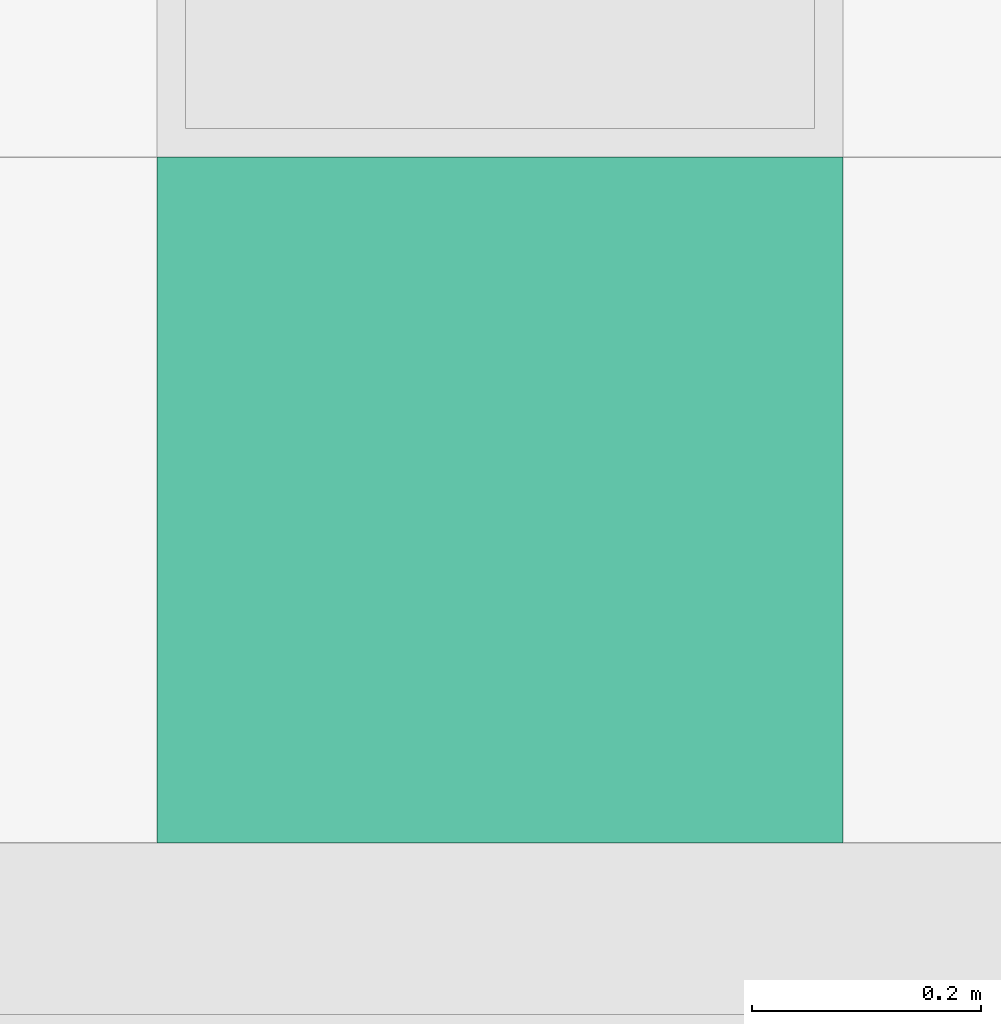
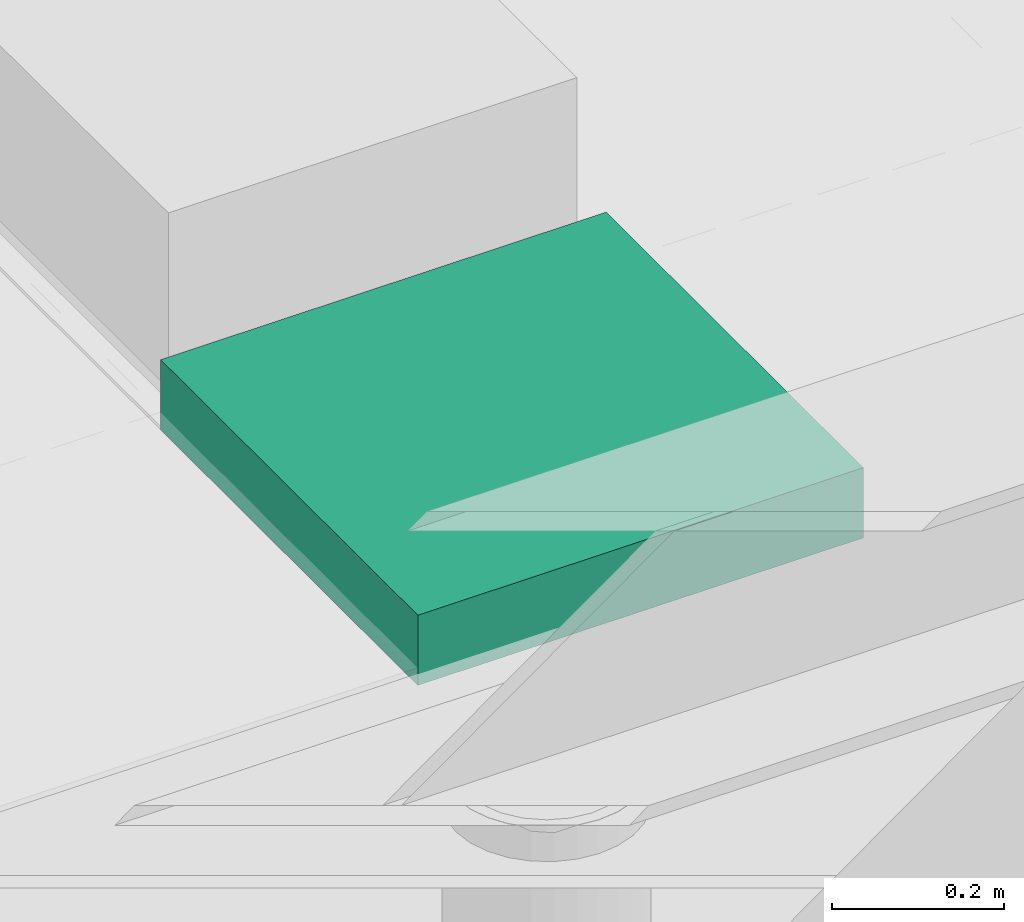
# One storey, part 188 of 347: 1 flow terminal.
"""IFC2X3 building model written with IfcOpenShell, lengths in millimetres."""

from ifc_helpers import new_model, entity, si_unit, converted_unit, derived_unit, money_unit, direction, frame, origin_with_axes, place, context, subcontext, project, spatial, open_shell, faceted_brep, surface_model, source, transform, mapped, type_object, type_shapes, element, save


model = new_model("IFC2X3")

# Units and contexts
model_context = context("Model", 3, precision=0.01, world=origin_with_axes(), true_north=direction((0.0, 1.0)))
plan_context = context("Plan", 3, precision=0.01, world=origin_with_axes(), true_north=direction((0.0, 1.0)))
body_context = subcontext(model_context, "Body", "Model", "MODEL_VIEW")
ifc_project = project(units=[si_unit("LENGTHUNIT", "METRE", prefix="MILLI"), si_unit("AREAUNIT", "SQUARE_METRE"), si_unit("VOLUMEUNIT", "CUBIC_METRE"), converted_unit("PLANEANGLEUNIT", "DEGREE", entity("IfcPlaneAngleMeasure", 0.0174532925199), si_unit("PLANEANGLEUNIT", "RADIAN"), dimensions=[0, 0, 0, 0, 0, 0, 0]), money_unit("EUR"), converted_unit("TIMEUNIT", "Year", entity("IfcTimeMeasure", 31556926.0), si_unit("TIMEUNIT", "SECOND"), dimensions=[0, 0, 1, 0, 0, 0, 0]), si_unit("MASSUNIT", "GRAM", prefix="KILO"), si_unit("THERMODYNAMICTEMPERATUREUNIT", "DEGREE_CELSIUS"), si_unit("LUMINOUSINTENSITYUNIT", "LUMEN"), si_unit("ENERGYUNIT", "JOULE", prefix="MEGA"), derived_unit("THERMALCONDUCTANCEUNIT", [(si_unit("POWERUNIT", "WATT"), 1), (si_unit("LENGTHUNIT", "METRE"), -1), (si_unit("THERMODYNAMICTEMPERATUREUNIT", "KELVIN"), -1)]), derived_unit("SPECIFICHEATCAPACITYUNIT", [(si_unit("ENERGYUNIT", "JOULE"), 1), (si_unit("MASSUNIT", "GRAM", prefix="KILO"), -1), (si_unit("THERMODYNAMICTEMPERATUREUNIT", "KELVIN"), -1)]), derived_unit("MASSDENSITYUNIT", [(si_unit("MASSUNIT", "GRAM", prefix="KILO"), 1), (si_unit("VOLUMEUNIT", "CUBIC_METRE"), -1)])], contexts=[model_context, plan_context])

# Site, building, storey
site_placement = place(None, origin_with_axes())
site = spatial("IfcSite", under=ifc_project, at=site_placement, Name="Site", CompositionType="ELEMENT")
building_placement = place(site_placement, origin_with_axes())
building = spatial("IfcBuilding", under=site, at=building_placement, Name="Naam gebouw", CompositionType="ELEMENT")
storey_placement = place(building_placement, origin_with_axes())
storey = spatial("IfcBuildingStorey", under=building, at=storey_placement, Name="begane grond", CompositionType="ELEMENT", Elevation=0.0)

# Flow terminal
lamp_type = type_object("IfcLampType", Name="TL plafond 25", PredefinedType="NOTDEFINED")
shared_shape = source(origin_with_axes(), body_context, "Body", "SurfaceModel", [
    faceted_brep([(0.0, 0.0, -100.0), (600.0, 0.0, -100.0), (600.0, 0.0, 0.0), (0.0, 0.0, 0.0), (0.0, 600.0, -100.0), (600.0, 600.0, -100.0), (40.0, 40.0, -100.0), (560.0, 40.0, -100.0), (560.0, 560.0, -100.0), (40.0, 560.0, -100.0), (600.0, 600.0, 0.0), (0.0, 600.0, 0.0), (40.0, 40.0, 0.0), (40.0, 560.0, 0.0), (560.0, 560.0, 0.0), (560.0, 40.0, 0.0)], [[[0, 1, 2, 3]], [[0, 4, 5, 1], [6, 7, 8, 9]], [[1, 5, 10, 2]], [[3, 2, 10, 11], [12, 13, 14, 15]], [[4, 0, 3, 11]], [[5, 4, 11, 10]], [[7, 6, 12, 15]], [[8, 7, 15, 14]], [[9, 8, 14, 13]], [[6, 9, 13, 12]]]),
    faceted_brep([(40.0, 40.0, -16.3333333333), (560.0, 40.0, -16.3333333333), (560.0, 40.0, 0.0), (40.0, 40.0, 0.0), (40.0, 560.0, -16.3333333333), (560.0, 560.0, -16.3333333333), (560.0, 560.0, 0.0), (40.0, 560.0, 0.0)], [[[0, 1, 2, 3]], [[0, 4, 5, 1]], [[1, 5, 6, 2]], [[3, 2, 6, 7]], [[4, 0, 3, 7]], [[5, 4, 7, 6]]]),
    surface_model("IfcShellBasedSurfaceModel", [(559.0, 41.0, -100.0), (40.0, 41.0, -100.0), (40.0, 559.0, -100.0), (559.0, 559.0, -100.0)], [open_shell([[[0, 1, 2, 3]]])]),
    faceted_brep([(40.0, 40.0, -100.0), (560.0, 40.0, -100.0), (560.0, 40.0, -60.0), (40.0, 40.0, -60.0), (40.0, 560.0, -100.0), (560.0, 560.0, -100.0), (41.0, 41.0, -100.0), (559.0, 41.0, -100.0), (559.0, 559.0, -100.0), (41.0, 559.0, -100.0), (560.0, 560.0, -60.0), (40.0, 560.0, -60.0), (41.0, 41.0, -60.0), (41.0, 559.0, -60.0), (559.0, 559.0, -60.0), (559.0, 41.0, -60.0)], [[[0, 1, 2, 3]], [[0, 4, 5, 1], [6, 7, 8, 9]], [[1, 5, 10, 2]], [[3, 2, 10, 11], [12, 13, 14, 15]], [[4, 0, 3, 11]], [[5, 4, 11, 10]], [[7, 6, 12, 15]], [[8, 7, 15, 14]], [[9, 8, 14, 13]], [[6, 9, 13, 12]]]),
    faceted_brep([(40.0, 144.0, -48.3333333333), (40.0, 149.740251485, -47.191526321), (560.0, 149.740251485, -47.191526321), (560.0, 144.0, -48.3333333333), (40.0, 138.259748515, -47.191526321), (40.0, 133.393398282, -43.9399350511), (40.0, 130.141807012, -39.0735848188), (40.0, 129.0, -33.3333333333), (40.0, 130.141807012, -27.5930818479), (40.0, 133.393398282, -22.7267316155), (40.0, 138.259748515, -19.4751403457), (40.0, 144.0, -18.3333333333), (40.0, 149.740251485, -19.4751403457), (40.0, 154.606601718, -22.7267316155), (40.0, 157.858192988, -27.5930818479), (40.0, 159.0, -33.3333333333), (40.0, 157.858192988, -39.0735848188), (40.0, 154.606601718, -43.9399350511), (40.0, 144.0, -46.3333333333), (40.0, 148.974884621, -45.343767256), (40.0, 153.192388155, -42.5257214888), (40.0, 156.010433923, -38.3082179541), (40.0, 157.0, -33.3333333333), (40.0, 156.010433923, -28.3584487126), (40.0, 153.192388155, -24.1409451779), (40.0, 148.974884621, -21.3228994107), (40.0, 144.0, -20.3333333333), (40.0, 139.025115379, -21.3228994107), (40.0, 134.807611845, -24.1409451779), (40.0, 131.989566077, -28.3584487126), (40.0, 131.0, -33.3333333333), (40.0, 131.989566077, -38.3082179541), (40.0, 134.807611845, -42.5257214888), (40.0, 139.025115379, -45.343767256), (560.0, 154.606601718, -43.9399350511), (560.0, 157.858192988, -39.0735848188), (560.0, 159.0, -33.3333333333), (560.0, 157.858192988, -27.5930818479), (560.0, 154.606601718, -22.7267316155), (560.0, 149.740251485, -19.4751403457), (560.0, 144.0, -18.3333333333), (560.0, 138.259748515, -19.4751403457), (560.0, 133.393398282, -22.7267316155), (560.0, 130.141807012, -27.5930818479), (560.0, 129.0, -33.3333333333), (560.0, 130.141807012, -39.0735848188), (560.0, 133.393398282, -43.9399350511), (560.0, 138.259748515, -47.191526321), (560.0, 144.0, -46.3333333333), (560.0, 139.025115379, -45.343767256), (560.0, 134.807611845, -42.5257214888), (560.0, 131.989566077, -38.3082179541), (560.0, 131.0, -33.3333333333), (560.0, 131.989566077, -28.3584487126), (560.0, 134.807611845, -24.1409451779), (560.0, 139.025115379, -21.3228994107), (560.0, 144.0, -20.3333333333), (560.0, 148.974884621, -21.3228994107), (560.0, 153.192388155, -24.1409451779), (560.0, 156.010433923, -28.3584487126), (560.0, 157.0, -33.3333333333), (560.0, 156.010433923, -38.3082179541), (560.0, 153.192388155, -42.5257214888), (560.0, 148.974884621, -45.343767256)], [[[0, 1, 2, 3]], [[0, 4, 5, 6, 7, 8, 9, 10, 11, 12, 13, 14, 15, 16, 17, 1], [18, 19, 20, 21, 22, 23, 24, 25, 26, 27, 28, 29, 30, 31, 32, 33]], [[1, 17, 34, 2]], [[3, 2, 34, 35, 36, 37, 38, 39, 40, 41, 42, 43, 44, 45, 46, 47], [48, 49, 50, 51, 52, 53, 54, 55, 56, 57, 58, 59, 60, 61, 62, 63]], [[4, 0, 3, 47]], [[5, 4, 47, 46]], [[6, 5, 46, 45]], [[7, 6, 45, 44]], [[8, 7, 44, 43]], [[9, 8, 43, 42]], [[10, 9, 42, 41]], [[11, 10, 41, 40]], [[12, 11, 40, 39]], [[13, 12, 39, 38]], [[14, 13, 38, 37]], [[15, 14, 37, 36]], [[16, 15, 36, 35]], [[17, 16, 35, 34]], [[19, 18, 48, 63]], [[20, 19, 63, 62]], [[21, 20, 62, 61]], [[22, 21, 61, 60]], [[23, 22, 60, 59]], [[24, 23, 59, 58]], [[25, 24, 58, 57]], [[26, 25, 57, 56]], [[27, 26, 56, 55]], [[28, 27, 55, 54]], [[29, 28, 54, 53]], [[30, 29, 53, 52]], [[31, 30, 52, 51]], [[32, 31, 51, 50]], [[33, 32, 50, 49]], [[18, 33, 49, 48]]]),
    faceted_brep([(40.0, 248.0, -48.3333333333), (40.0, 253.740251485, -47.191526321), (560.0, 253.740251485, -47.191526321), (560.0, 248.0, -48.3333333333), (40.0, 242.259748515, -47.191526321), (40.0, 237.393398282, -43.9399350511), (40.0, 234.141807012, -39.0735848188), (40.0, 233.0, -33.3333333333), (40.0, 234.141807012, -27.5930818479), (40.0, 237.393398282, -22.7267316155), (40.0, 242.259748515, -19.4751403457), (40.0, 248.0, -18.3333333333), (40.0, 253.740251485, -19.4751403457), (40.0, 258.606601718, -22.7267316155), (40.0, 261.858192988, -27.5930818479), (40.0, 263.0, -33.3333333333), (40.0, 261.858192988, -39.0735848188), (40.0, 258.606601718, -43.9399350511), (40.0, 248.0, -46.3333333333), (40.0, 252.974884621, -45.343767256), (40.0, 257.192388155, -42.5257214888), (40.0, 260.010433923, -38.3082179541), (40.0, 261.0, -33.3333333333), (40.0, 260.010433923, -28.3584487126), (40.0, 257.192388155, -24.1409451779), (40.0, 252.974884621, -21.3228994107), (40.0, 248.0, -20.3333333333), (40.0, 243.025115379, -21.3228994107), (40.0, 238.807611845, -24.1409451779), (40.0, 235.989566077, -28.3584487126), (40.0, 235.0, -33.3333333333), (40.0, 235.989566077, -38.3082179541), (40.0, 238.807611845, -42.5257214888), (40.0, 243.025115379, -45.343767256), (560.0, 258.606601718, -43.9399350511), (560.0, 261.858192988, -39.0735848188), (560.0, 263.0, -33.3333333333), (560.0, 261.858192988, -27.5930818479), (560.0, 258.606601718, -22.7267316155), (560.0, 253.740251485, -19.4751403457), (560.0, 248.0, -18.3333333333), (560.0, 242.259748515, -19.4751403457), (560.0, 237.393398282, -22.7267316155), (560.0, 234.141807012, -27.5930818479), (560.0, 233.0, -33.3333333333), (560.0, 234.141807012, -39.0735848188), (560.0, 237.393398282, -43.9399350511), (560.0, 242.259748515, -47.191526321), (560.0, 248.0, -46.3333333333), (560.0, 243.025115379, -45.343767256), (560.0, 238.807611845, -42.5257214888), (560.0, 235.989566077, -38.3082179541), (560.0, 235.0, -33.3333333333), (560.0, 235.989566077, -28.3584487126), (560.0, 238.807611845, -24.1409451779), (560.0, 243.025115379, -21.3228994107), (560.0, 248.0, -20.3333333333), (560.0, 252.974884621, -21.3228994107), (560.0, 257.192388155, -24.1409451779), (560.0, 260.010433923, -28.3584487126), (560.0, 261.0, -33.3333333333), (560.0, 260.010433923, -38.3082179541), (560.0, 257.192388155, -42.5257214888), (560.0, 252.974884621, -45.343767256)], [[[0, 1, 2, 3]], [[0, 4, 5, 6, 7, 8, 9, 10, 11, 12, 13, 14, 15, 16, 17, 1], [18, 19, 20, 21, 22, 23, 24, 25, 26, 27, 28, 29, 30, 31, 32, 33]], [[1, 17, 34, 2]], [[3, 2, 34, 35, 36, 37, 38, 39, 40, 41, 42, 43, 44, 45, 46, 47], [48, 49, 50, 51, 52, 53, 54, 55, 56, 57, 58, 59, 60, 61, 62, 63]], [[4, 0, 3, 47]], [[5, 4, 47, 46]], [[6, 5, 46, 45]], [[7, 6, 45, 44]], [[8, 7, 44, 43]], [[9, 8, 43, 42]], [[10, 9, 42, 41]], [[11, 10, 41, 40]], [[12, 11, 40, 39]], [[13, 12, 39, 38]], [[14, 13, 38, 37]], [[15, 14, 37, 36]], [[16, 15, 36, 35]], [[17, 16, 35, 34]], [[19, 18, 48, 63]], [[20, 19, 63, 62]], [[21, 20, 62, 61]], [[22, 21, 61, 60]], [[23, 22, 60, 59]], [[24, 23, 59, 58]], [[25, 24, 58, 57]], [[26, 25, 57, 56]], [[27, 26, 56, 55]], [[28, 27, 55, 54]], [[29, 28, 54, 53]], [[30, 29, 53, 52]], [[31, 30, 52, 51]], [[32, 31, 51, 50]], [[33, 32, 50, 49]], [[18, 33, 49, 48]]]),
    faceted_brep([(40.0, 352.0, -48.3333333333), (40.0, 357.740251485, -47.191526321), (560.0, 357.740251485, -47.191526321), (560.0, 352.0, -48.3333333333), (40.0, 346.259748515, -47.191526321), (40.0, 341.393398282, -43.9399350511), (40.0, 338.141807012, -39.0735848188), (40.0, 337.0, -33.3333333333), (40.0, 338.141807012, -27.5930818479), (40.0, 341.393398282, -22.7267316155), (40.0, 346.259748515, -19.4751403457), (40.0, 352.0, -18.3333333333), (40.0, 357.740251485, -19.4751403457), (40.0, 362.606601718, -22.7267316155), (40.0, 365.858192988, -27.5930818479), (40.0, 367.0, -33.3333333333), (40.0, 365.858192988, -39.0735848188), (40.0, 362.606601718, -43.9399350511), (40.0, 352.0, -46.3333333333), (40.0, 356.974884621, -45.343767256), (40.0, 361.192388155, -42.5257214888), (40.0, 364.010433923, -38.3082179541), (40.0, 365.0, -33.3333333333), (40.0, 364.010433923, -28.3584487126), (40.0, 361.192388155, -24.1409451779), (40.0, 356.974884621, -21.3228994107), (40.0, 352.0, -20.3333333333), (40.0, 347.025115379, -21.3228994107), (40.0, 342.807611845, -24.1409451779), (40.0, 339.989566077, -28.3584487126), (40.0, 339.0, -33.3333333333), (40.0, 339.989566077, -38.3082179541), (40.0, 342.807611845, -42.5257214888), (40.0, 347.025115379, -45.343767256), (560.0, 362.606601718, -43.9399350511), (560.0, 365.858192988, -39.0735848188), (560.0, 367.0, -33.3333333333), (560.0, 365.858192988, -27.5930818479), (560.0, 362.606601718, -22.7267316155), (560.0, 357.740251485, -19.4751403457), (560.0, 352.0, -18.3333333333), (560.0, 346.259748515, -19.4751403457), (560.0, 341.393398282, -22.7267316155), (560.0, 338.141807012, -27.5930818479), (560.0, 337.0, -33.3333333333), (560.0, 338.141807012, -39.0735848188), (560.0, 341.393398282, -43.9399350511), (560.0, 346.259748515, -47.191526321), (560.0, 352.0, -46.3333333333), (560.0, 347.025115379, -45.343767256), (560.0, 342.807611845, -42.5257214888), (560.0, 339.989566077, -38.3082179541), (560.0, 339.0, -33.3333333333), (560.0, 339.989566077, -28.3584487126), (560.0, 342.807611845, -24.1409451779), (560.0, 347.025115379, -21.3228994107), (560.0, 352.0, -20.3333333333), (560.0, 356.974884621, -21.3228994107), (560.0, 361.192388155, -24.1409451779), (560.0, 364.010433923, -28.3584487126), (560.0, 365.0, -33.3333333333), (560.0, 364.010433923, -38.3082179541), (560.0, 361.192388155, -42.5257214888), (560.0, 356.974884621, -45.343767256)], [[[0, 1, 2, 3]], [[0, 4, 5, 6, 7, 8, 9, 10, 11, 12, 13, 14, 15, 16, 17, 1], [18, 19, 20, 21, 22, 23, 24, 25, 26, 27, 28, 29, 30, 31, 32, 33]], [[1, 17, 34, 2]], [[3, 2, 34, 35, 36, 37, 38, 39, 40, 41, 42, 43, 44, 45, 46, 47], [48, 49, 50, 51, 52, 53, 54, 55, 56, 57, 58, 59, 60, 61, 62, 63]], [[4, 0, 3, 47]], [[5, 4, 47, 46]], [[6, 5, 46, 45]], [[7, 6, 45, 44]], [[8, 7, 44, 43]], [[9, 8, 43, 42]], [[10, 9, 42, 41]], [[11, 10, 41, 40]], [[12, 11, 40, 39]], [[13, 12, 39, 38]], [[14, 13, 38, 37]], [[15, 14, 37, 36]], [[16, 15, 36, 35]], [[17, 16, 35, 34]], [[19, 18, 48, 63]], [[20, 19, 63, 62]], [[21, 20, 62, 61]], [[22, 21, 61, 60]], [[23, 22, 60, 59]], [[24, 23, 59, 58]], [[25, 24, 58, 57]], [[26, 25, 57, 56]], [[27, 26, 56, 55]], [[28, 27, 55, 54]], [[29, 28, 54, 53]], [[30, 29, 53, 52]], [[31, 30, 52, 51]], [[32, 31, 51, 50]], [[33, 32, 50, 49]], [[18, 33, 49, 48]]]),
    faceted_brep([(40.0, 456.0, -48.3333333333), (40.0, 461.740251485, -47.191526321), (560.0, 461.740251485, -47.191526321), (560.0, 456.0, -48.3333333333), (40.0, 450.259748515, -47.191526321), (40.0, 445.393398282, -43.9399350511), (40.0, 442.141807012, -39.0735848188), (40.0, 441.0, -33.3333333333), (40.0, 442.141807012, -27.5930818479), (40.0, 445.393398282, -22.7267316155), (40.0, 450.259748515, -19.4751403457), (40.0, 456.0, -18.3333333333), (40.0, 461.740251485, -19.4751403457), (40.0, 466.606601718, -22.7267316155), (40.0, 469.858192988, -27.5930818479), (40.0, 471.0, -33.3333333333), (40.0, 469.858192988, -39.0735848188), (40.0, 466.606601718, -43.9399350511), (40.0, 456.0, -46.3333333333), (40.0, 460.974884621, -45.343767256), (40.0, 465.192388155, -42.5257214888), (40.0, 468.010433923, -38.3082179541), (40.0, 469.0, -33.3333333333), (40.0, 468.010433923, -28.3584487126), (40.0, 465.192388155, -24.1409451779), (40.0, 460.974884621, -21.3228994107), (40.0, 456.0, -20.3333333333), (40.0, 451.025115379, -21.3228994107), (40.0, 446.807611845, -24.1409451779), (40.0, 443.989566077, -28.3584487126), (40.0, 443.0, -33.3333333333), (40.0, 443.989566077, -38.3082179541), (40.0, 446.807611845, -42.5257214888), (40.0, 451.025115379, -45.343767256), (560.0, 466.606601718, -43.9399350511), (560.0, 469.858192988, -39.0735848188), (560.0, 471.0, -33.3333333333), (560.0, 469.858192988, -27.5930818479), (560.0, 466.606601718, -22.7267316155), (560.0, 461.740251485, -19.4751403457), (560.0, 456.0, -18.3333333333), (560.0, 450.259748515, -19.4751403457), (560.0, 445.393398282, -22.7267316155), (560.0, 442.141807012, -27.5930818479), (560.0, 441.0, -33.3333333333), (560.0, 442.141807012, -39.0735848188), (560.0, 445.393398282, -43.9399350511), (560.0, 450.259748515, -47.191526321), (560.0, 456.0, -46.3333333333), (560.0, 451.025115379, -45.343767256), (560.0, 446.807611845, -42.5257214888), (560.0, 443.989566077, -38.3082179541), (560.0, 443.0, -33.3333333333), (560.0, 443.989566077, -28.3584487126), (560.0, 446.807611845, -24.1409451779), (560.0, 451.025115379, -21.3228994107), (560.0, 456.0, -20.3333333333), (560.0, 460.974884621, -21.3228994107), (560.0, 465.192388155, -24.1409451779), (560.0, 468.010433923, -28.3584487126), (560.0, 469.0, -33.3333333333), (560.0, 468.010433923, -38.3082179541), (560.0, 465.192388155, -42.5257214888), (560.0, 460.974884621, -45.343767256)], [[[0, 1, 2, 3]], [[0, 4, 5, 6, 7, 8, 9, 10, 11, 12, 13, 14, 15, 16, 17, 1], [18, 19, 20, 21, 22, 23, 24, 25, 26, 27, 28, 29, 30, 31, 32, 33]], [[1, 17, 34, 2]], [[3, 2, 34, 35, 36, 37, 38, 39, 40, 41, 42, 43, 44, 45, 46, 47], [48, 49, 50, 51, 52, 53, 54, 55, 56, 57, 58, 59, 60, 61, 62, 63]], [[4, 0, 3, 47]], [[5, 4, 47, 46]], [[6, 5, 46, 45]], [[7, 6, 45, 44]], [[8, 7, 44, 43]], [[9, 8, 43, 42]], [[10, 9, 42, 41]], [[11, 10, 41, 40]], [[12, 11, 40, 39]], [[13, 12, 39, 38]], [[14, 13, 38, 37]], [[15, 14, 37, 36]], [[16, 15, 36, 35]], [[17, 16, 35, 34]], [[19, 18, 48, 63]], [[20, 19, 63, 62]], [[21, 20, 62, 61]], [[22, 21, 61, 60]], [[23, 22, 60, 59]], [[24, 23, 59, 58]], [[25, 24, 58, 57]], [[26, 25, 57, 56]], [[27, 26, 56, 55]], [[28, 27, 55, 54]], [[29, 28, 54, 53]], [[30, 29, 53, 52]], [[31, 30, 52, 51]], [[32, 31, 51, 50]], [[33, 32, 50, 49]], [[18, 33, 49, 48]]]),
])
type_shapes(lamp_type, [shared_shape])
flow_terminal_placement = place(storey_placement, frame((18505.0, 5599.99997201, 3295.0), z_axis=(0.0, 0.0, 1.0), x_axis=(1.0, 0.0, 0.0)))
element("IfcFlowTerminal", 1, at=flow_terminal_placement, inside=storey, type_object=lamp_type, Name="63_Lamp-x", ObjectType="Lamp", context=body_context, shape_type="MappedRepresentation", body=[
    mapped(shared_shape, transform((0.0, 0.0, 0.0))),
])

save(model, "model.ifc")
